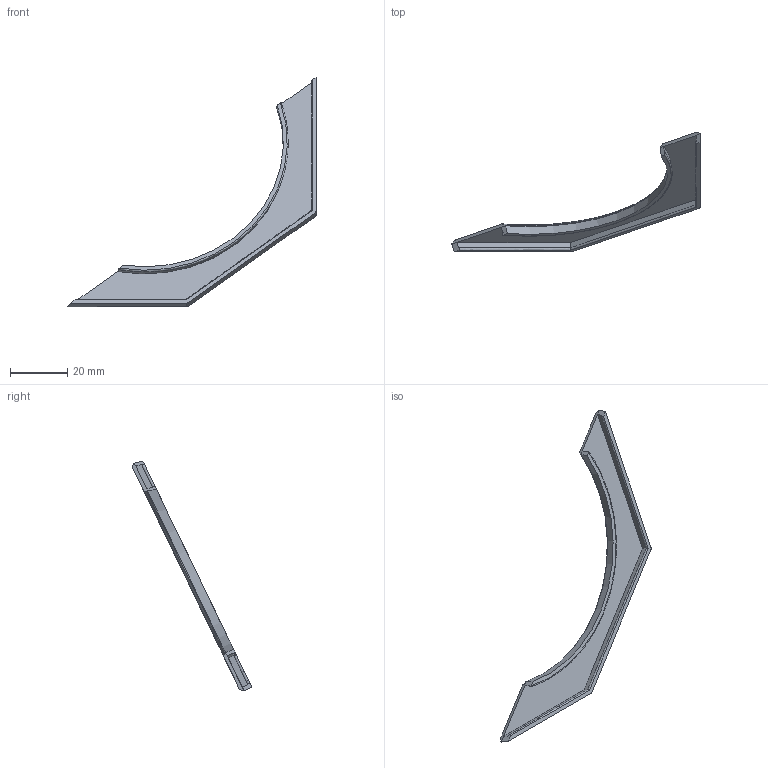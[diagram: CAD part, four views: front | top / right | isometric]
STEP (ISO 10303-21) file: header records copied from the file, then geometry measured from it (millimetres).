
FILE_DESCRIPTION((''),'2;1');
FILE_NAME('PRT0001','2022-10-27T10:53:18',('Kate'),(''),'CREO PARAMETRIC BY PTC INC, 2020281','CREO PARAMETRIC BY PTC INC, 2020281','');
FILE_SCHEMA(('AUTOMOTIVE_DESIGN { 1 0 10303 214 1 1 1 1 }'));
Length unit declared in the file: millimetre
Products named in the file (1): PRT0001
Bounding box: 87.01 x 41.85 x 80.47 mm (x, y, z)
Volume: 2893.5 mm3; surface area: 5039.6 mm2
Topology: 1 solids, 1 shells, 40 faces, 96 edges, 58 vertices
Faces by surface type: plane 19, cylinder 10, cone 3, torus 3, extrusion 3, revolution 1, bspline 1
Entity records: 1296 total; most frequent: CARTESIAN_POINT 349, ORIENTED_EDGE 192, DIRECTION 168, EDGE_CURVE 96, VERTEX_POINT 58, AXIS2_PLACEMENT_3D 56, VECTOR 55, LINE 52
